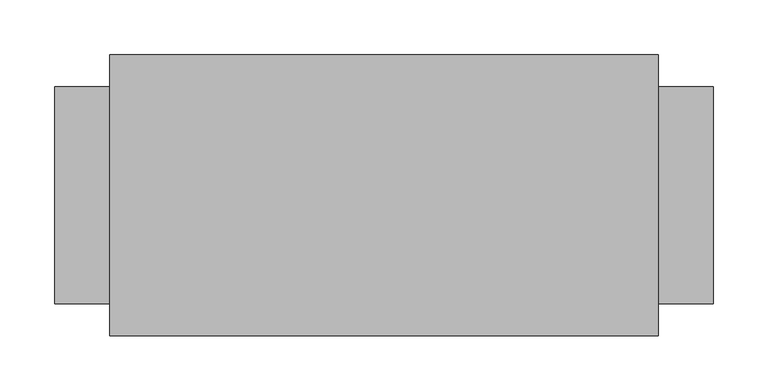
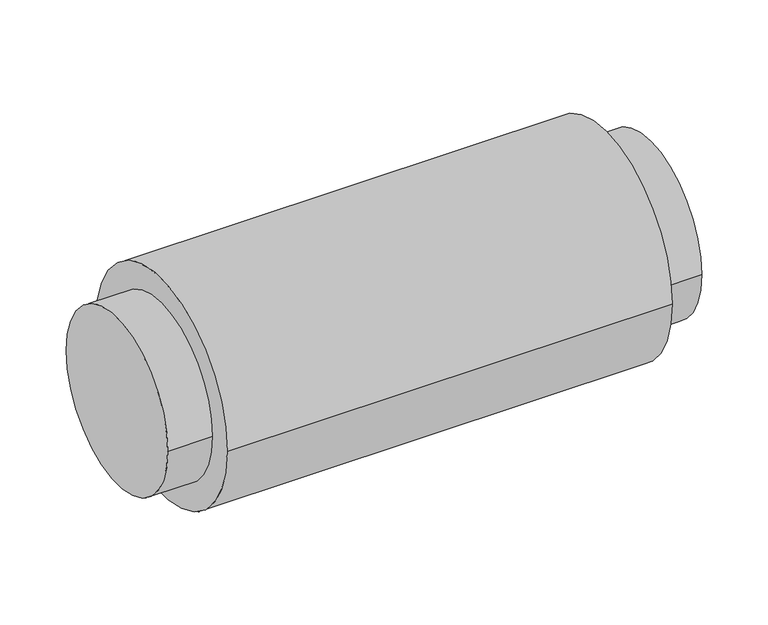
"""IFC4 building model written with IfcOpenShell, lengths in millimetres: damper geometry, VE-Tłumik_Akustyczny-ParaForma-Harmann-FLEXITEC : 200-0500."""

from ifc_helpers import new_model, si_unit, point, frame, origin, origin_2d, place, context, project, spatial, circle_curve, trimmed, segment, composite_curve, outline, extrude, source, transform, mapped, element, save


def damper_c859ab89(model_context):
    return source(origin(), model_context, "Body", "SweptSolid", [
        extrude(outline(composite_curve([segment(trimmed(circle_curve(origin_2d(), 99.0), [point((-99.0, 0.0))], [point((99.0, 0.0))], False, "CARTESIAN"), True, "CONTINUOUS"), segment(trimmed(circle_curve(origin_2d(), 99.0), [point((99.0, 0.0))], [point((-99.0, 0.0))], False, "CARTESIAN"), True, "CONTINUOUS")], self_intersect=False)), frame((250.0, 0.0, 0.0), z_axis=(1.0, 0.0, 0.0), x_axis=(0.0, 1.0, 0.0)), (0.0, 0.0, 1.0), 50.0),
        extrude(outline(composite_curve([segment(trimmed(circle_curve(origin_2d(), 99.0), [point((-99.0, 0.0))], [point((99.0, 0.0))], False, "CARTESIAN"), True, "CONTINUOUS"), segment(trimmed(circle_curve(origin_2d(), 99.0), [point((99.0, 0.0))], [point((-99.0, 0.0))], False, "CARTESIAN"), True, "CONTINUOUS")], self_intersect=False)), frame((-300.0, 0.0, 0.0), z_axis=(1.0, 0.0, 0.0), x_axis=(0.0, 1.0, 0.0)), (0.0, 0.0, 1.0), 50.0),
        extrude(outline(composite_curve([segment(trimmed(circle_curve(origin_2d(), 127.95), [point((-127.95, 0.0))], [point((127.95, 0.0))], False, "CARTESIAN"), True, "CONTINUOUS"), segment(trimmed(circle_curve(origin_2d(), 127.95), [point((127.95, 0.0))], [point((-127.95, 0.0))], False, "CARTESIAN"), True, "CONTINUOUS")], self_intersect=False)), frame((-250.0, 0.0, 0.0), z_axis=(1.0, 0.0, 0.0), x_axis=(0.0, 1.0, 0.0)), (0.0, 0.0, 1.0), 500.0),
    ])


if __name__ == "__main__":
    model = new_model("IFC4")
    model_context = context("Model", 3, world=origin())
    ifc_project = project(units=[si_unit("LENGTHUNIT", "METRE", prefix="MILLI")], contexts=[model_context])
    site = spatial("IfcSite", under=ifc_project)
    building = spatial("IfcBuilding", under=site)
    placement = place(None, origin())
    damper_shape = damper_c859ab89(model_context)
    element("IfcDamper", 1, ObjectType="VE-Tłumik_Akustyczny-ParaForma-Harmann-FLEXITEC : 200-0500", at=placement, inside=building, context=model_context, shape_type="MappedRepresentation", body=[
        mapped(damper_shape, transform((0.0, 0.0, 0.0), x_axis=(1.0, 0.0, 0.0), y_axis=(0.0, 1.0, 0.0), z_axis=(0.0, 0.0, 1.0))),
    ])
    save(model, "model.ifc")
